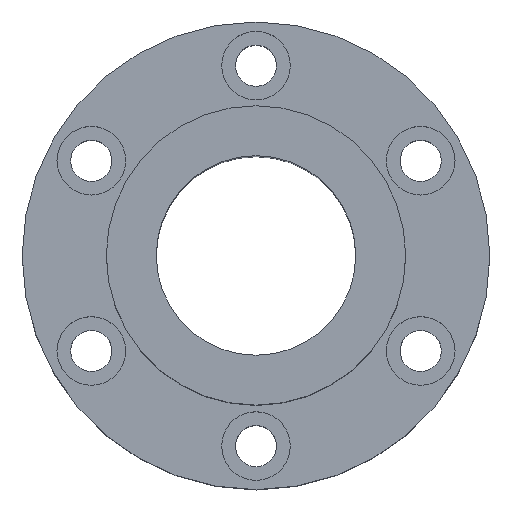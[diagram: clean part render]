
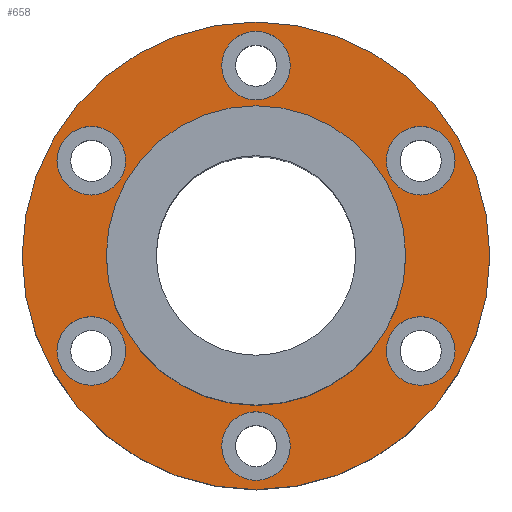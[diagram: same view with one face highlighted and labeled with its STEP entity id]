
A CAD part, top view. The second image highlights one B-rep face of the part: STEP entity #658.
In plain terms, the highlighted planar face has unit normal (0, 0, 1).
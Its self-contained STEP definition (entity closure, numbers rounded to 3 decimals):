
#1=CARTESIAN_POINT('',(0.,0.,15.));
#2=DIRECTION('',(0.,0.,1.));
#3=DIRECTION('',(1.,0.,0.));
#4=AXIS2_PLACEMENT_3D('',#1,#2,#3);
#6=CARTESIAN_POINT('',(0.,0.,15.));
#7=DIRECTION('',(0.,0.,1.));
#8=DIRECTION('',(-1.,0.,0.));
#9=AXIS2_PLACEMENT_3D('',#6,#7,#8);
#11=CARTESIAN_POINT('',(26.414,-15.25,15.));
#12=DIRECTION('',(0.,0.,-1.));
#13=DIRECTION('',(-0.5,-0.866,0.));
#14=AXIS2_PLACEMENT_3D('',#11,#12,#13);
#16=CARTESIAN_POINT('',(26.414,-15.25,15.));
#17=DIRECTION('',(0.,0.,-1.));
#18=DIRECTION('',(0.5,0.866,0.));
#19=AXIS2_PLACEMENT_3D('',#16,#17,#18);
#21=CARTESIAN_POINT('',(-26.414,-15.25,15.));
#22=DIRECTION('',(0.,0.,-1.));
#23=DIRECTION('',(-0.5,0.866,0.));
#24=AXIS2_PLACEMENT_3D('',#21,#22,#23);
#26=CARTESIAN_POINT('',(-26.414,-15.25,15.));
#27=DIRECTION('',(0.,0.,-1.));
#28=DIRECTION('',(0.5,-0.866,0.));
#29=AXIS2_PLACEMENT_3D('',#26,#27,#28);
#31=CARTESIAN_POINT('',(0.,30.5,15.));
#32=DIRECTION('',(0.,0.,-1.));
#33=DIRECTION('',(1.,0.,0.));
#34=AXIS2_PLACEMENT_3D('',#31,#32,#33);
#36=CARTESIAN_POINT('',(0.,30.5,15.));
#37=DIRECTION('',(0.,0.,-1.));
#38=DIRECTION('',(-1.,0.,0.));
#39=AXIS2_PLACEMENT_3D('',#36,#37,#38);
#41=CARTESIAN_POINT('',(0.,0.,15.));
#42=DIRECTION('',(0.,0.,-1.));
#43=DIRECTION('',(1.,0.,0.));
#44=AXIS2_PLACEMENT_3D('',#41,#42,#43);
#46=CARTESIAN_POINT('',(0.,0.,15.));
#47=DIRECTION('',(0.,0.,-1.));
#48=DIRECTION('',(-1.,0.,0.));
#49=AXIS2_PLACEMENT_3D('',#46,#47,#48);
#51=CARTESIAN_POINT('',(-26.414,15.25,15.));
#52=DIRECTION('',(0.,0.,-1.));
#53=DIRECTION('',(0.5,0.866,0.));
#54=AXIS2_PLACEMENT_3D('',#51,#52,#53);
#56=CARTESIAN_POINT('',(-26.414,15.25,15.));
#57=DIRECTION('',(0.,0.,-1.));
#58=DIRECTION('',(-0.5,-0.866,0.));
#59=AXIS2_PLACEMENT_3D('',#56,#57,#58);
#61=CARTESIAN_POINT('',(0.,-30.5,15.));
#62=DIRECTION('',(0.,0.,-1.));
#63=DIRECTION('',(-1.,0.,0.));
#64=AXIS2_PLACEMENT_3D('',#61,#62,#63);
#66=CARTESIAN_POINT('',(0.,-30.5,15.));
#67=DIRECTION('',(0.,0.,-1.));
#68=DIRECTION('',(1.,0.,0.));
#69=AXIS2_PLACEMENT_3D('',#66,#67,#68);
#71=CARTESIAN_POINT('',(26.414,15.25,15.));
#72=DIRECTION('',(0.,0.,-1.));
#73=DIRECTION('',(0.5,-0.866,0.));
#74=AXIS2_PLACEMENT_3D('',#71,#72,#73);
#76=CARTESIAN_POINT('',(26.414,15.25,15.));
#77=DIRECTION('',(0.,0.,-1.));
#78=DIRECTION('',(-0.5,0.866,0.));
#79=AXIS2_PLACEMENT_3D('',#76,#77,#78);
#533=CARTESIAN_POINT('',(-37.5,0.,15.));
#535=VERTEX_POINT('',#533);
#537=CARTESIAN_POINT('',(37.5,0.,15.));
#539=VERTEX_POINT('',#537);
#541=CARTESIAN_POINT('',(5.5,30.5,15.));
#543=VERTEX_POINT('',#541);
#545=CARTESIAN_POINT('',(-5.5,30.5,15.));
#547=VERTEX_POINT('',#545);
#549=CARTESIAN_POINT('',(-23.664,20.013,15.));
#551=VERTEX_POINT('',#549);
#553=CARTESIAN_POINT('',(-29.164,10.487,15.));
#555=VERTEX_POINT('',#553);
#557=CARTESIAN_POINT('',(-29.164,-10.487,15.));
#559=VERTEX_POINT('',#557);
#561=CARTESIAN_POINT('',(-23.664,-20.013,15.));
#563=VERTEX_POINT('',#561);
#565=CARTESIAN_POINT('',(-5.5,-30.5,15.));
#567=VERTEX_POINT('',#565);
#569=CARTESIAN_POINT('',(5.5,-30.5,15.));
#571=VERTEX_POINT('',#569);
#573=CARTESIAN_POINT('',(23.664,-20.013,15.));
#575=VERTEX_POINT('',#573);
#577=CARTESIAN_POINT('',(29.164,-10.487,15.));
#579=VERTEX_POINT('',#577);
#581=CARTESIAN_POINT('',(29.164,10.487,15.));
#583=VERTEX_POINT('',#581);
#585=CARTESIAN_POINT('',(23.664,20.013,15.));
#587=VERTEX_POINT('',#585);
#598=CARTESIAN_POINT('',(24.,0.,15.));
#600=VERTEX_POINT('',#598);
#602=CARTESIAN_POINT('',(-24.,0.,15.));
#604=VERTEX_POINT('',#602);
#605=CARTESIAN_POINT('',(0.,0.,15.));
#606=DIRECTION('',(0.,0.,1.));
#607=DIRECTION('',(1.,0.,0.));
#608=AXIS2_PLACEMENT_3D('',#605,#606,#607);
#609=PLANE('',#608);
#611=ORIENTED_EDGE('',*,*,#610,.F.);
#613=ORIENTED_EDGE('',*,*,#612,.F.);
#614=EDGE_LOOP('',(#611,#613));
#615=FACE_OUTER_BOUND('',#614,.F.);
#617=ORIENTED_EDGE('',*,*,#616,.F.);
#619=ORIENTED_EDGE('',*,*,#618,.F.);
#620=EDGE_LOOP('',(#617,#619));
#621=FACE_BOUND('',#620,.F.);
#623=ORIENTED_EDGE('',*,*,#622,.F.);
#625=ORIENTED_EDGE('',*,*,#624,.F.);
#626=EDGE_LOOP('',(#623,#625));
#627=FACE_BOUND('',#626,.F.);
#629=ORIENTED_EDGE('',*,*,#628,.F.);
#631=ORIENTED_EDGE('',*,*,#630,.F.);
#632=EDGE_LOOP('',(#629,#631));
#633=FACE_BOUND('',#632,.F.);
#635=ORIENTED_EDGE('',*,*,#634,.F.);
#637=ORIENTED_EDGE('',*,*,#636,.F.);
#638=EDGE_LOOP('',(#635,#637));
#639=FACE_BOUND('',#638,.F.);
#641=ORIENTED_EDGE('',*,*,#640,.F.);
#643=ORIENTED_EDGE('',*,*,#642,.F.);
#644=EDGE_LOOP('',(#641,#643));
#645=FACE_BOUND('',#644,.F.);
#647=ORIENTED_EDGE('',*,*,#646,.F.);
#649=ORIENTED_EDGE('',*,*,#648,.F.);
#650=EDGE_LOOP('',(#647,#649));
#651=FACE_BOUND('',#650,.F.);
#653=ORIENTED_EDGE('',*,*,#652,.F.);
#655=ORIENTED_EDGE('',*,*,#654,.F.);
#656=EDGE_LOOP('',(#653,#655));
#657=FACE_BOUND('',#656,.F.);
#658=ADVANCED_FACE('',(#615,#621,#627,#633,#639,#645,#651,#657),#609,.T.);
#5=CIRCLE('',#4,37.5);
#10=CIRCLE('',#9,37.5);
#15=CIRCLE('',#14,5.5);
#20=CIRCLE('',#19,5.5);
#25=CIRCLE('',#24,5.5);
#30=CIRCLE('',#29,5.5);
#35=CIRCLE('',#34,5.5);
#40=CIRCLE('',#39,5.5);
#45=CIRCLE('',#44,24.);
#50=CIRCLE('',#49,24.);
#55=CIRCLE('',#54,5.5);
#60=CIRCLE('',#59,5.5);
#65=CIRCLE('',#64,5.5);
#70=CIRCLE('',#69,5.5);
#75=CIRCLE('',#74,5.5);
#80=CIRCLE('',#79,5.5);
#610=EDGE_CURVE('',#539,#535,#5,.T.);
#612=EDGE_CURVE('',#535,#539,#10,.T.);
#616=EDGE_CURVE('',#575,#579,#15,.T.);
#618=EDGE_CURVE('',#579,#575,#20,.T.);
#622=EDGE_CURVE('',#559,#563,#25,.T.);
#624=EDGE_CURVE('',#563,#559,#30,.T.);
#628=EDGE_CURVE('',#543,#547,#35,.T.);
#630=EDGE_CURVE('',#547,#543,#40,.T.);
#634=EDGE_CURVE('',#600,#604,#45,.T.);
#636=EDGE_CURVE('',#604,#600,#50,.T.);
#640=EDGE_CURVE('',#551,#555,#55,.T.);
#642=EDGE_CURVE('',#555,#551,#60,.T.);
#646=EDGE_CURVE('',#567,#571,#65,.T.);
#648=EDGE_CURVE('',#571,#567,#70,.T.);
#652=EDGE_CURVE('',#583,#587,#75,.T.);
#654=EDGE_CURVE('',#587,#583,#80,.T.);
